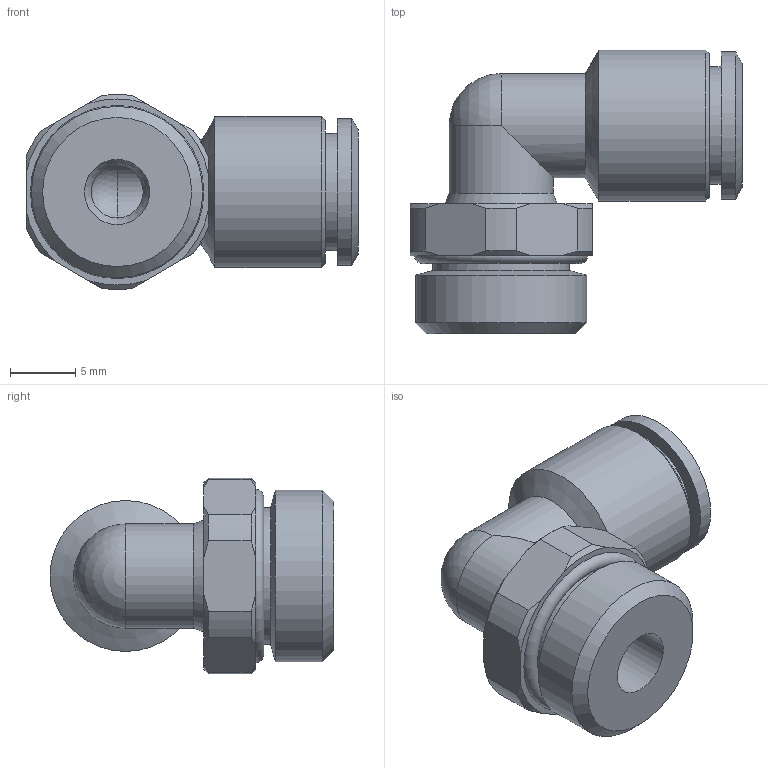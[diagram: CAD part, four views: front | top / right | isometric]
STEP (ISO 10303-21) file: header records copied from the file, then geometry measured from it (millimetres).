
FILE_DESCRIPTION(('STEP AP214'),'1');
FILE_NAME('CA.12.05.038.stp','2019-06-07T06:13:38',(' '),(' '),'Spatial InterOp 3D',' ',' ');
FILE_SCHEMA(('AUTOMOTIVE_DESIGN { 1 0 10303 214 1 1 1 1 }'));
Length unit declared in the file: millimetre
Products named in the file (1): CA.12.05.038
Bounding box: 25.5 x 21.8 x 14.98 mm (x, y, z)
Volume: 2530.6 mm3; surface area: 2197.9 mm2
Topology: 1 solids, 1 shells, 53 faces, 136 edges, 89 vertices
Faces by surface type: cone 19, cylinder 17, plane 14, sphere 2, torus 1
Full cylindrical faces by diameter (mm): 4 x1, 4.5 x1, 5 x1, 6 x1, 8 x2, 9 x1, 10.5 x1, 11.3 x1, 11.6 x1, 13.157 x1
Entity records: 1894 total; most frequent: CARTESIAN_POINT 331, DIRECTION 238, ORIENTED_EDGE 204, AXIS2_PLACEMENT_3D 107, EDGE_CURVE 102, EDGE_LOOP 80, VERTEX_POINT 76, FACE_OUTER_BOUND 65
